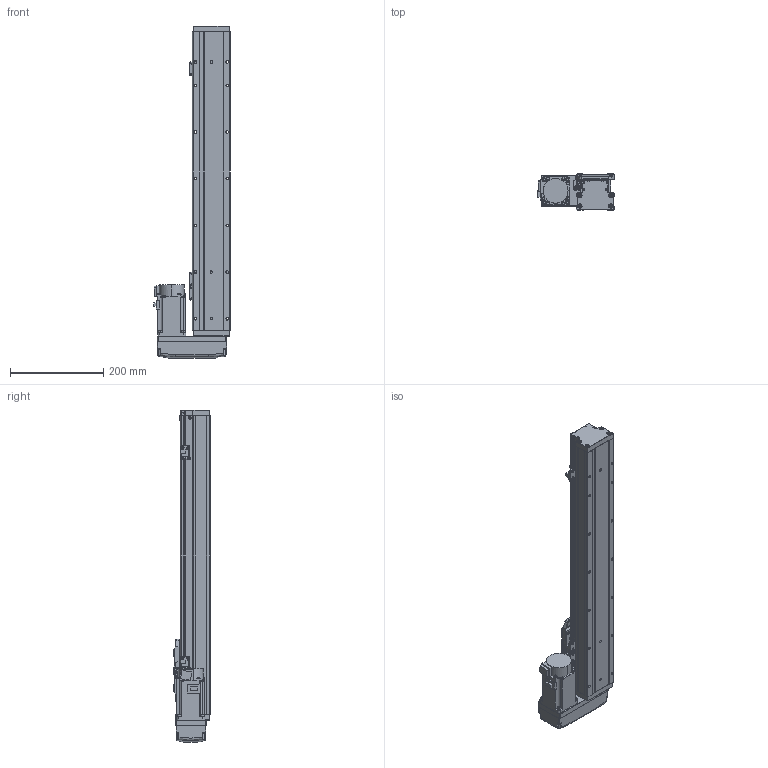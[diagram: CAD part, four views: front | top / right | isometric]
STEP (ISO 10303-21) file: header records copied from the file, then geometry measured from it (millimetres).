
FILE_DESCRIPTION (( 'STEP AP203' ), '1' );
FILE_NAME ('GTH8-450-BL-M20-C4.step', '2022-09-23T01:00:15', ( '微软用户' ), ( '微软中国' ), 'SwSTEP 2.0', 'SolidWorks 2020', '' );
FILE_SCHEMA (( 'CONFIG_CONTROL_DESIGN' ));
Length unit declared in the file: millimetre
Products named in the file (18): GTH80-028; CTHA86-033_M40B; GTH80-006; GTH50-024; GTH8-450-BL-M20-C4; GTH80-013; GTH50-023; GBT 70.3-M3℅6; GBT96.1-2002 3×0.8; GTH80-022; BTH-M3X5X6; GTH80-001_450; GBT 70.1-M3℅6; hg-kn43j_-s100_; GTH80-003; GBT 70.1-M4×16; CTHA86-015-1_CTHA86-015-2; GTH80-004
Assembly tree (57 placements, depth 2):
  GTH8-450-BL-M20-C4
    GTH80-001_450
    GTH80-003
    GTH80-004
    GTH80-006
    GTH80-013
    GBT 70.3-M3℅6  x4
    GTH80-022
    GBT 70.1-M3℅6  x14
    GBT 70.1-M4×16  x8
    GTH80-028  x2
    GTH50-024  x3
    GTH50-023  x3
    GBT96.1-2002 3×0.8  x6
    BTH-M3X5X6  x8
    hg-kn43j_-s100_
    CTHA86-015-1_CTHA86-015-2
    CTHA86-033_M40B
Bounding box: 164.8 x 78 x 711 mm (x, y, z)
Volume: 3761191.3 mm3; surface area: 413409.2 mm2
Topology: 59 solids, 59 shells, 2236 faces, 5163 edges, 3163 vertices
Faces by surface type: plane 1187, cylinder 607, cone 260, torus 166, bspline 8, sphere 8
Entity records: 40774 total; most frequent: CARTESIAN_POINT 7169, DIRECTION 6621, ORIENTED_EDGE 6144, EDGE_CURVE 3072, AXIS2_PLACEMENT_3D 2313, VECTOR 1995, LINE 1995, VERTEX_POINT 1938
